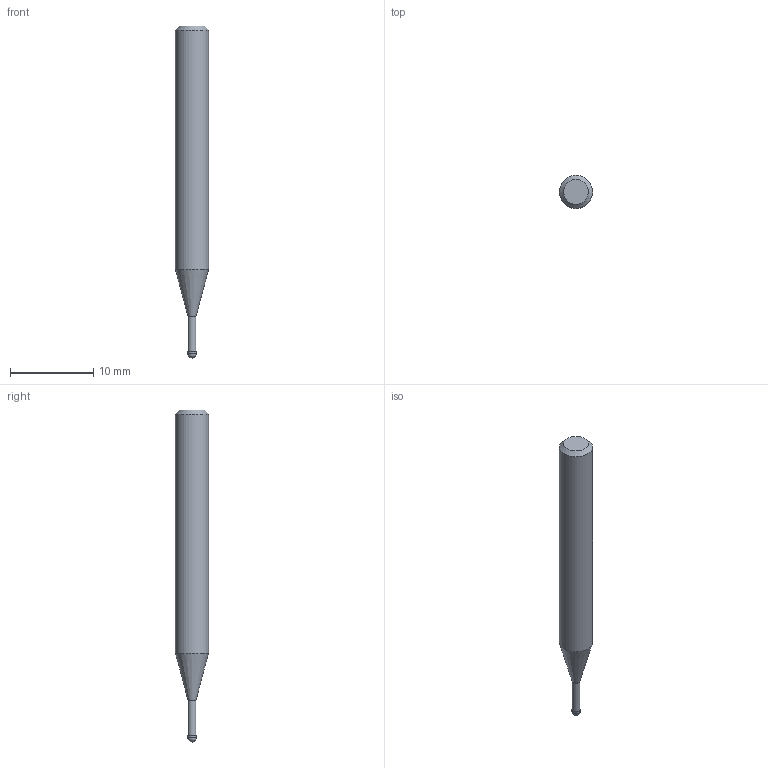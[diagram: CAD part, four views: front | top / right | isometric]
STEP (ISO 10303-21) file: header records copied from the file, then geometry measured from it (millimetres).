
FILE_DESCRIPTION((''),'2;1');
FILE_NAME('C:\Users\nsx150\AppData\Local\Temp\Mastercam 2021\QT8KEW0Y7J\TEMP.step','2021-04-23T11:21:08',(''),(''),'STEP Write','Mastercam 2021 ... CNC Software, Inc.','');
FILE_SCHEMA(('AUTOMOTIVE_DESIGN'));
Length unit declared in the file: millimetre
Products named in the file (1): None
Bounding box: 4 x 4 x 40 mm (x, y, z)
Volume: 401.2 mm3; surface area: 439.2 mm2
Topology: 2 solids, 2 shells, 9 faces, 14 edges, 8 vertices
Faces by surface type: plane 3, cylinder 3, cone 2, sphere 1
Full cylindrical faces by diameter (mm): 0.95 x1, 1 x1, 4 x1
Entity records: 211 total; most frequent: DIRECTION 36, CARTESIAN_POINT 25, AXIS2_PLACEMENT_3D 18, ORIENTED_EDGE 14, EDGE_LOOP 14, STYLED_ITEM 12, ADVANCED_FACE 9, FACE_BOUND 8
